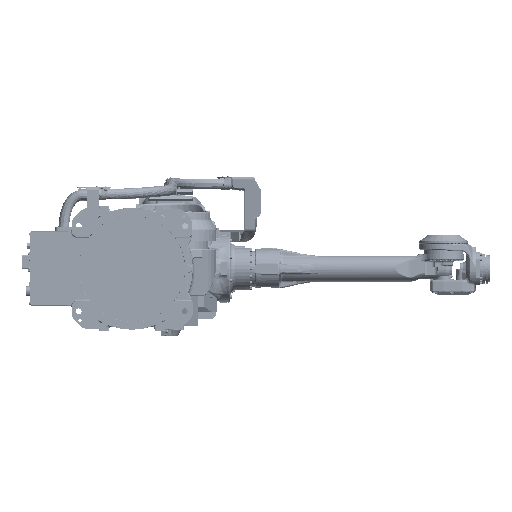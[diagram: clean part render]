
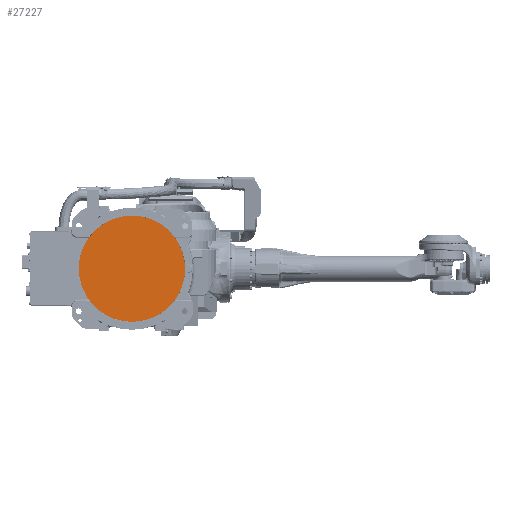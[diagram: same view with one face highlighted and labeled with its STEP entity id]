
A CAD part, front view. The second image highlights one B-rep face of the part: STEP entity #27227.
In plain terms, the highlighted planar face has unit normal (0, -1, 0).
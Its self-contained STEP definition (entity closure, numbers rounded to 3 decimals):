
#2674=CARTESIAN_POINT('',(0.,10.5,0.));
#2675=DIRECTION('',(0.,1.,0.));
#2676=DIRECTION('',(-1.,0.,0.));
#2677=AXIS2_PLACEMENT_3D('',#2674,#2675,#2676);
#2679=CARTESIAN_POINT('',(0.,10.5,0.));
#2680=DIRECTION('',(0.,1.,0.));
#2681=DIRECTION('',(1.,0.,0.));
#2682=AXIS2_PLACEMENT_3D('',#2679,#2680,#2681);
#21015=CARTESIAN_POINT('',(-199.6,10.5,0.));
#21016=CARTESIAN_POINT('',(199.6,10.5,0.));
#21017=VERTEX_POINT('',#21015);
#21018=VERTEX_POINT('',#21016);
#27217=CARTESIAN_POINT('',(0.,10.5,0.));
#27218=DIRECTION('',(0.,-1.,0.));
#27219=DIRECTION('',(1.,0.,0.));
#27220=AXIS2_PLACEMENT_3D('',#27217,#27218,#27219);
#27221=PLANE('',#27220);
#27223=ORIENTED_EDGE('',*,*,#27222,.T.);
#27224=ORIENTED_EDGE('',*,*,#27207,.T.);
#27225=EDGE_LOOP('',(#27223,#27224));
#27226=FACE_OUTER_BOUND('',#27225,.F.);
#27227=ADVANCED_FACE('',(#27226),#27221,.T.);
#2678=CIRCLE('',#2677,199.6);
#2683=CIRCLE('',#2682,199.6);
#27207=EDGE_CURVE('',#21018,#21017,#2683,.T.);
#27222=EDGE_CURVE('',#21017,#21018,#2678,.T.);
